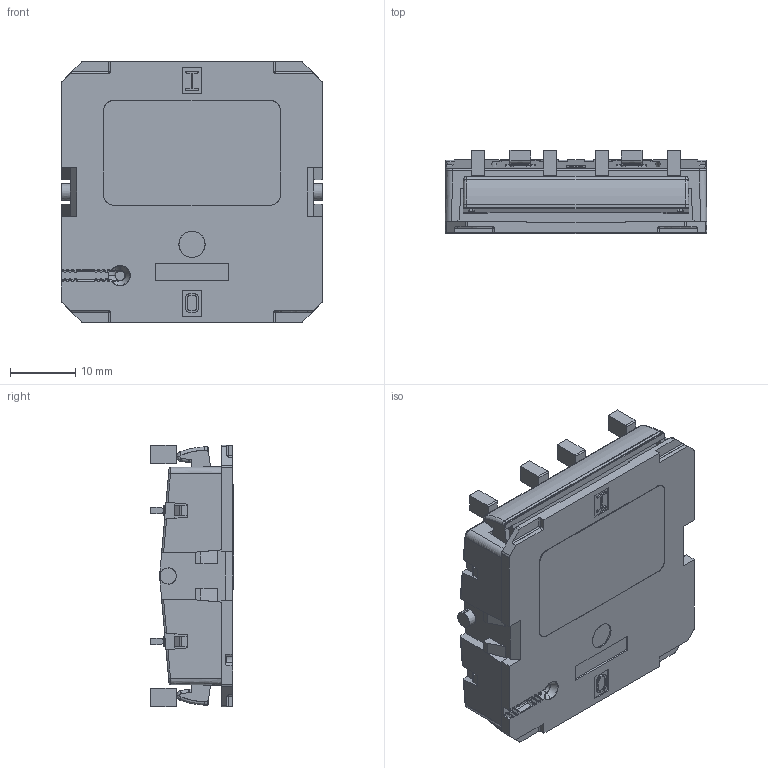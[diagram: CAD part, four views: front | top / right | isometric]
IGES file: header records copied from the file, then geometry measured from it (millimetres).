
Start section: SolidWorks IGES file using analytic representation for surfaces
Global section: file name: C:\Users\sven.klausnitzer\Desktop\PTM 210 update\Aufbereitet für SVN\EinbauanweisungPTM210-Wippe_nicht-gedrückt_14-04-2020.IGS; native system: SolidWorks 2014; preprocessor: SolidWorks 2014; author: sven.klausnitzer; date: 200420.205153; units: millimetre
Bounding box: 40 x 12.7 x 40 mm (x, y, z)
Surface area: 8923.3 mm2 (no closed solid volume)
Topology: 0 solids, 0 shells, 1155 faces, 8821 edges, 8773 vertices
Faces by surface type: bspline 713, revolution 442
